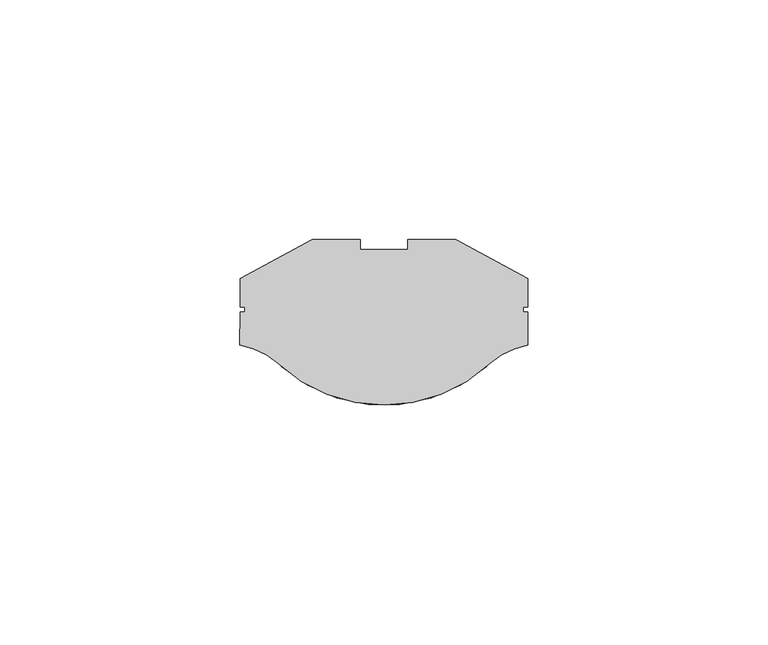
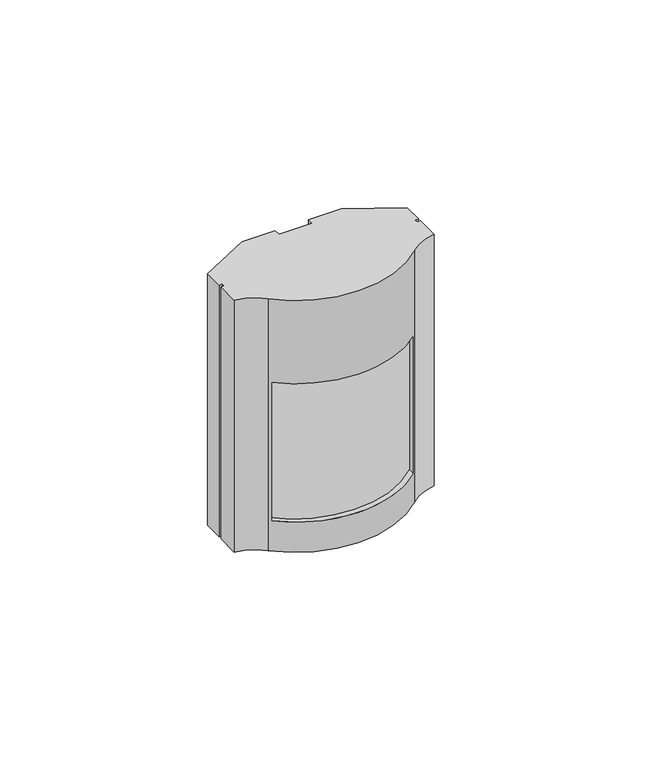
"""IFC4 building model written with IfcOpenShell, lengths in millimetres: alarm geometry, АОПИ_ тип модель : АОПИ."""

import ifcopenshell
import ifcopenshell.guid

model = None  # the IFC model being written
_history = None  # IfcOwnerHistory: only IFC2X3 demands one
_inside = {}  # id of a spatial element -> (the spatial element, [elements in it])
_under = {}  # id of a project, library or spatial element -> (it, [spatial elements below it])
_declared = {}  # id of a project -> (the project, [libraries it declares])
_typed = {}  # id of a type object -> (the type object, [elements of that type])
_made_of = {}  # id of a material, layer set ... -> (it, [elements and type objects made of it])


def new_model(schema):
    """Start an empty IFC model of exactly this schema.

    Asked for "IFC4X3", IfcOpenShell would pick the latest addendum, in which some entities
    have other attributes; the version numbers below select the first issue.
    IFC2X3 requires an IfcOwnerHistory on every rooted entity: one is made here for all.
    """
    global model, _history
    if schema == "IFC4X3":
        model = ifcopenshell.file(schema_version=(4, 3, 0, 0))
    else:
        model = ifcopenshell.file(schema=schema)
    _inside.clear()
    _under.clear()
    _declared.clear()
    _typed.clear()
    _made_of.clear()
    _history = None
    if model.schema == "IFC2X3":
        org = make("IfcOrganization", Name="unknown")
        user = make(
            "IfcPersonAndOrganization",
            ThePerson=make("IfcPerson", FamilyName="unknown"),
            TheOrganization=org,
        )
        app = make(
            "IfcApplication",
            ApplicationDeveloper=org,
            Version="unknown",
            ApplicationFullName="unknown",
            ApplicationIdentifier="unknown",
        )
        _history = make(
            "IfcOwnerHistory",
            OwningUser=user,
            OwningApplication=app,
            ChangeAction="ADDED",
            CreationDate=0,
        )
    return model


def make(cls, **values):
    """One entity of the class cls with the attributes given. An attribute that is None is left unset."""
    return model.create_entity(
        cls, **{name: value for name, value in values.items() if value is not None}
    )


def rooted(cls, **values):
    """An entity with a GlobalId (a new one), such as an element, a storey or a relation."""
    return make(cls, GlobalId=ifcopenshell.guid.new(), OwnerHistory=_history, **values)


def si_unit(unit_type, name, prefix=None):
    """IfcSIUnit, for example si_unit("LENGTHUNIT", "METRE", prefix="MILLI")."""
    return make("IfcSIUnit", UnitType=unit_type, Prefix=prefix, Name=name)


def assignment(units):
    """IfcUnitAssignment: the units of a project."""
    return None if units is None else make("IfcUnitAssignment", Units=units)


def point(xyz):
    """IfcCartesianPoint."""
    return None if xyz is None else make("IfcCartesianPoint", Coordinates=xyz)


def direction(xyz):
    """IfcDirection."""
    return None if xyz is None else make("IfcDirection", DirectionRatios=xyz)


def frame(location, z_axis=None, x_axis=None):
    """IfcAxis2Placement3D, a coordinate frame: its origin and axes. An axis left out is left unset."""
    return make(
        "IfcAxis2Placement3D",
        Location=point(location),
        Axis=direction(z_axis),
        RefDirection=direction(x_axis),
    )


def origin():
    """The frame at (0, 0, 0) with its axes left unset."""
    return frame((0.0, 0.0, 0.0))


def place(relative_to, where):
    """IfcLocalPlacement: puts the frame where relative to a parent placement (None: the world)."""
    return make(
        "IfcLocalPlacement", PlacementRelTo=relative_to, RelativePlacement=where
    )


def context(
    kind, dimensions, precision=None, world=None, true_north=None, identifier=None
):
    """IfcGeometricRepresentationContext, for example the 3D "Model" context."""
    return make(
        "IfcGeometricRepresentationContext",
        ContextIdentifier=identifier,
        ContextType=kind,
        CoordinateSpaceDimension=dimensions,
        Precision=precision,
        WorldCoordinateSystem=world,
        TrueNorth=true_north,
    )


def project(units=None, contexts=None):
    """IfcProject with its units and contexts."""
    return rooted(
        "IfcProject",
        Name="project",
        RepresentationContexts=contexts,
        UnitsInContext=assignment(units),
    )


def spatial(cls, under=None, at=None, **own):
    """A site, building, storey or space (cls), placed at a placement, below another one or the project."""
    s = rooted(cls, ObjectPlacement=at, **own)
    if under is not None:
        _under.setdefault(under.id(), (under, []))[1].append(s)
    return s


def polyline(points):
    """IfcPolyline through the points."""
    return make("IfcPolyline", Points=[point(p) for p in points])


def circle_curve(where, radius):
    """IfcCircle in the frame where."""
    return make("IfcCircle", Position=where, Radius=radius)


def shape(context_of_items, identifier, shape_type, items):
    """IfcShapeRepresentation: the items that make up one representation, for example the "Body"."""
    return make(
        "IfcShapeRepresentation",
        ContextOfItems=context_of_items,
        RepresentationIdentifier=identifier,
        RepresentationType=shape_type,
        Items=items,
    )


def source(mapping_origin, context_of_items, identifier, shape_type, items):
    """IfcRepresentationMap: a shape defined once, which mapped items show again and again."""
    return make(
        "IfcRepresentationMap",
        MappingOrigin=mapping_origin,
        MappedRepresentation=shape(context_of_items, identifier, shape_type, items),
    )


def transform(
    local_origin,
    x_axis=None,
    y_axis=None,
    z_axis=None,
    scale=None,
    scale2=None,
    scale3=None,
    uniform=True,
):
    """IfcCartesianTransformationOperator3D, or its non-uniform kind. x_axis, y_axis, z_axis: its Axis1, 2, 3."""
    if uniform:
        return make(
            "IfcCartesianTransformationOperator3D",
            Axis1=direction(x_axis),
            Axis2=direction(y_axis),
            LocalOrigin=point(local_origin),
            Scale=scale,
            Axis3=direction(z_axis),
        )
    return make(
        "IfcCartesianTransformationOperator3DnonUniform",
        Axis1=direction(x_axis),
        Axis2=direction(y_axis),
        LocalOrigin=point(local_origin),
        Scale=scale,
        Axis3=direction(z_axis),
        Scale2=scale2,
        Scale3=scale3,
    )


def mapped(mapping_source, mapping_target):
    """IfcMappedItem: shows the shape of a source again, moved by a transform."""
    return make(
        "IfcMappedItem", MappingSource=mapping_source, MappingTarget=mapping_target
    )


def made_of(thing, what):
    """Note that an element or type object is made of a material, layer set ...; save() writes the relation."""
    if what is not None:
        _made_of.setdefault(what.id(), (what, []))[1].append(thing)
    return thing


def element(
    cls,
    number,
    at=None,
    inside=None,
    cuts=None,
    type_object=None,
    material=None,
    context=None,
    identifier="Body",
    shape_type=None,
    held_by="IfcProductDefinitionShape",
    body=None,
    shapes=None,
    **own,
):
    """One element of the class cls, such as IfcWall. Its Tag is "e" and its number.

    at: its placement. inside: the storey or other place that contains it. cuts: it is an
    opening in that element (IfcRelVoidsElement). A single representation is given by context,
    identifier, shape_type and body (its items); several are given by shapes. held_by: the class
    of the entity that holds the representations. save() writes the other relations.
    """
    e = rooted(cls, Tag="e%d" % number, ObjectPlacement=at, **own)
    if body is not None:
        shapes = [shape(context, identifier, shape_type, body)]
    if shapes is not None:
        e.Representation = make(held_by, Representations=shapes)
    if inside is not None:
        _inside.setdefault(inside.id(), (inside, []))[1].append(e)
    if cuts is not None:
        rooted(
            "IfcRelVoidsElement", RelatingBuildingElement=cuts, RelatedOpeningElement=e
        )
    if type_object is not None:
        _typed.setdefault(type_object.id(), (type_object, []))[1].append(e)
    return made_of(e, material)


def aggregate(whole, parts):
    """IfcRelAggregates: a whole, such as a stair, and the parts it consists of."""
    return rooted("IfcRelAggregates", RelatingObject=whole, RelatedObjects=parts)


def save(model, path):
    """Write the relations noted so far, then the file.

    IfcRelAggregates (storeys below a building ...), IfcRelContainedInSpatialStructure (elements
    in a storey), IfcRelDefinesByType, IfcRelAssociatesMaterial and IfcRelDeclares: one each for
    every whole, place, type object, material and project.
    """
    for whole, parts in _under.values():
        aggregate(whole, parts)
    for where, things in _inside.values():
        rooted(
            "IfcRelContainedInSpatialStructure",
            RelatedElements=things,
            RelatingStructure=where,
        )
    for kind, things in _typed.values():
        rooted("IfcRelDefinesByType", RelatedObjects=things, RelatingType=kind)
    for what, things in _made_of.values():
        rooted("IfcRelAssociatesMaterial", RelatedObjects=things, RelatingMaterial=what)
    for by, libraries in _declared.values():
        rooted("IfcRelDeclares", RelatingContext=by, RelatedDefinitions=libraries)
    model.write(path)


def plane_surface(at):
    """IfcPlane: the flat surface through the origin of the frame at, square to its z axis."""
    return make("IfcPlane", Position=at)


def cylinder_surface(at, radius):
    """IfcCylindricalSurface: all points at the distance radius from the z axis of the frame at."""
    return make("IfcCylindricalSurface", Position=at, Radius=radius)


def revolved_surface(curve, axis_point, axis_direction):
    """IfcSurfaceOfRevolution: the curve turned about the line through axis_point along axis_direction."""
    return make(
        "IfcSurfaceOfRevolution",
        SweptCurve=make("IfcArbitraryOpenProfileDef", ProfileType="CURVE", Curve=curve),
        AxisPosition=make("IfcAxis1Placement", Location=point(axis_point), Axis=direction(axis_direction)),
    )


def advanced_brep(points, edges, surfaces, faces):
    """IfcAdvancedBrep: a solid bounded by faces that lie on surfaces and meet in shared edges.

    An edge is (start, end): straight between two places in points (the first is 0);
    or (start, end, curve); or (start, end, curve, False) where it runs against its curve.
    A face is (place in surfaces, loops), or (place, loops, False) where it looks against
    its surface's normal. A loop lists edges by number (the first is 1), with a minus sign
    where the edge is run from its end to its start. The first loop is the outer one.
    """
    corners = [point(p) for p in points]
    vertices = [make("IfcVertexPoint", VertexGeometry=c) for c in corners]
    made = []
    for start, end, *more in edges:
        made.append(
            make(
                "IfcEdgeCurve",
                EdgeStart=vertices[start],
                EdgeEnd=vertices[end],
                EdgeGeometry=more[0] if more else make("IfcPolyline", Points=[corners[start], corners[end]]),
                SameSense=more[1] if len(more) > 1 else True,
            )
        )
    hull = []
    for where, loops, *sense in faces:
        bounds = []
        for j, loop in enumerate(loops):
            ring = [make("IfcOrientedEdge", EdgeElement=made[abs(k) - 1], Orientation=k > 0) for k in loop]
            bounds.append(
                make(
                    "IfcFaceOuterBound" if j == 0 else "IfcFaceBound",
                    Bound=make("IfcEdgeLoop", EdgeList=ring),
                    Orientation=True,
                )
            )
        hull.append(make("IfcAdvancedFace", Bounds=bounds, FaceSurface=surfaces[where], SameSense=sense[0] if sense else True))
    return make("IfcAdvancedBrep", Outer=make("IfcClosedShell", CfsFaces=hull))


def alarm_7e1c0db4(model_context):
    return source(origin(), model_context, "Body", "AdvancedBrep", [
        advanced_brep(
        [(-5.0, 0.0, 0.0), (-15.0, 0.0, 0.0), (-30.0, -8.0473651, 0.0), (-30.0, -14.0241722, 0.0), (-29.0033784, -14.0241722, 0.0), (-29.0033784, -15.0383278, 0.0), (-30.0, -15.0383278, 0.0), (-30.0, -21.9526349, 0.0), (-22.0521326, -25.8153783, 0.0), (22.0521326, -25.8153783, 0.0), (30.0, -21.9526349, 0.0), (30.0, -15.0383278, 0.0), (29.0033784, -15.0383278, 0.0), (29.0033784, -14.0241722, 0.0), (30.0, -14.0241722, 0.0), (30.0, -8.0473651, 0.0), (15.0, 0.0, 0.0), (5.0, 0.0, 0.0), (5.0, -1.9801842, 0.0), (-5.0, -1.9801842, 0.0), (-5.0, 0.0, -80.0), (-5.0, -1.9801842, -80.0), (5.0, -1.9801842, -80.0), (5.0, 0.0, -80.0), (15.0, 0.0, -80.0), (30.0, -8.0473651, -80.0), (30.0, -14.0241722, -80.0), (29.0033784, -14.0241722, -80.0), (29.0033784, -15.0383278, -80.0), (30.0, -15.0383278, -80.0), (30.0, -21.9526349, -80.0), (22.0521326, -25.8153783, -80.0), (-22.0521326, -25.8153783, -80.0), (-30.0, -21.9526349, -80.0), (-30.0, -15.0383278, -80.0), (-29.0033784, -15.0383278, -80.0), (-29.0033784, -14.0241722, -80.0), (-30.0, -14.0241722, -80.0), (-30.0, -8.0473651, -80.0), (-15.0, 0.0, -80.0), (-21.3735822, -26.4247732, -26.3963401), (21.3735822, -26.4247732, -26.3963401), (21.3735822, -26.4247732, -70.4174075), (-21.3735822, -26.4247732, -70.4174075), (-21.3735822, -24.6174234, -26.3963401), (21.3735822, -24.330403, -26.3963401), (21.3735822, -24.330403, -70.4174075), (-21.3735822, -24.6174234, -70.4174075)],
        [
            (0, 1),
            (1, 2),
            (2, 3),
            (3, 4),
            (4, 5),
            (5, 6),
            (6, 7),
            (7, 8, circle_curve(frame((-32.4189443, -37.0378045, 0.0), z_axis=(0.0, 0.0, -1.0), x_axis=(1.0, 0.0, 0.0)), 15.2778805)),
            (8, 9, circle_curve(frame((0.0, -1.9431951, 0.0), z_axis=(0.0, 0.0, 1.0), x_axis=(1.0, 0.0, 0.0)), 32.4988874)),
            (9, 10, circle_curve(frame((32.4189443, -37.0378045, 0.0), z_axis=(0.0, 0.0, -1.0), x_axis=(-1.0, 0.0, 0.0)), 15.2778805)),
            (10, 11),
            (11, 12),
            (12, 13),
            (13, 14),
            (14, 15),
            (15, 16),
            (16, 17),
            (17, 18),
            (18, 19),
            (19, 0),
            (20, 21),
            (21, 22),
            (22, 23),
            (23, 24),
            (24, 25),
            (25, 26),
            (26, 27),
            (27, 28),
            (28, 29),
            (29, 30),
            (30, 31, circle_curve(frame((32.4189443, -37.0378045, -80.0), z_axis=(0.0, 0.0, 1.0), x_axis=(-1.0, 0.0, 0.0)), 15.2778805)),
            (31, 32, circle_curve(frame((0.0, -1.9431951, -80.0), z_axis=(0.0, 0.0, -1.0), x_axis=(1.0, 0.0, 0.0)), 32.4988874)),
            (32, 33, circle_curve(frame((-32.4189443, -37.0378045, -80.0), z_axis=(0.0, 0.0, 1.0), x_axis=(1.0, 0.0, 0.0)), 15.2778805)),
            (33, 34),
            (34, 35),
            (35, 36),
            (36, 37),
            (37, 38),
            (38, 39),
            (39, 20),
            (0, 20),
            (39, 1),
            (38, 2),
            (37, 3),
            (36, 4),
            (35, 5),
            (34, 6),
            (33, 7),
            (32, 8),
            (31, 9),
            (40, 41, circle_curve(frame((0.0, -1.9431951, -26.3963401), z_axis=(0.0, 0.0, 1.0), x_axis=(1.0, 0.0, 0.0)), 32.4988874)),
            (41, 42),
            (42, 43, circle_curve(frame((0.0, -1.9431951, -70.4174075), z_axis=(0.0, 0.0, -1.0), x_axis=(1.0, 0.0, 0.0)), 32.4988874)),
            (43, 40),
            (30, 10),
            (29, 11),
            (28, 12),
            (27, 13),
            (26, 14),
            (25, 15),
            (24, 16),
            (23, 17),
            (22, 18),
            (21, 19),
            (44, 45, circle_curve(frame((-0.1553482, -1.3372505, -26.3963401), z_axis=(0.0, 0.0, 1.0), x_axis=(1.0, 0.0, 0.0)), 31.4988874)),
            (45, 41),
            (40, 44),
            (46, 47, circle_curve(frame((-0.1553482, -1.3372505, -70.4174075), z_axis=(0.0, 0.0, -1.0), x_axis=(1.0, 0.0, 0.0)), 31.4988874)),
            (47, 43),
            (42, 46),
            (44, 47),
            (46, 45),
        ],
        [
            plane_surface(frame((0.0, 0.0, 0.0), z_axis=(0.0, 0.0, 1.0), x_axis=(-1.0, 0.0, 0.0))),
            plane_surface(frame((0.0, 0.0, -80.0), z_axis=(0.0, 0.0, -1.0), x_axis=(1.0, 0.0, 0.0))),
            plane_surface(frame((-5.0, 0.0, 0.0), z_axis=(0.0, 1.0, 0.0), x_axis=(0.0, 0.0, -1.0))),
            plane_surface(frame((-15.0, 0.0, 0.0), z_axis=(-0.4727531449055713, 0.881194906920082, 0.0), x_axis=(0.0, 0.0, -1.0))),
            plane_surface(frame((-30.0, -8.0473651, 0.0), z_axis=(-1.0, 0.0, 0.0), x_axis=(0.0, 0.0, -1.0))),
            plane_surface(frame((-30.0, -14.0241722, 0.0), z_axis=(0.0, -1.0, 0.0), x_axis=(0.0, 0.0, -1.0))),
            plane_surface(frame((-29.0033784, -14.0241722, 0.0), z_axis=(-1.0, 0.0, 0.0), x_axis=(0.0, 0.0, -1.0))),
            plane_surface(frame((-29.0033784, -15.0383278, 0.0), z_axis=(0.0, 1.0, 0.0), x_axis=(0.0, 0.0, -1.0))),
            plane_surface(frame((-30.0, -15.0383278, 0.0), z_axis=(-1.0, 0.0, 0.0), x_axis=(0.0, 0.0, -1.0))),
            revolved_surface(polyline([(-17.141063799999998, -37.0378045, -80.0), (-17.141063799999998, -37.0378045, 0.0)]), (-32.4189443, -37.0378045, -80.0), (0.0, 0.0, -1.0)),
            cylinder_surface(frame((0.0, -1.9431951, -80.0), z_axis=(0.0, 0.0, 1.0), x_axis=(1.0, 0.0, 0.0)), 32.4988874),
            revolved_surface(polyline([(17.141063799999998, -37.0378045, -80.0), (17.141063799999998, -37.0378045, 0.0)]), (32.4189443, -37.0378045, -80.0), (0.0, 0.0, -1.0)),
            plane_surface(frame((30.0, -21.9526349, 0.0), z_axis=(1.0, 0.0, 0.0), x_axis=(0.0, 0.0, -1.0))),
            plane_surface(frame((30.0, -15.0383278, 0.0), z_axis=(0.0, 1.0, 0.0), x_axis=(0.0, 0.0, -1.0))),
            plane_surface(frame((29.0033784, -15.0383278, 0.0), z_axis=(1.0, 0.0, 0.0), x_axis=(0.0, 0.0, -1.0))),
            plane_surface(frame((29.0033784, -14.0241722, 0.0), z_axis=(0.0, -1.0, 0.0), x_axis=(0.0, 0.0, -1.0))),
            plane_surface(frame((30.0, -14.0241722, 0.0), z_axis=(1.0, 0.0, 0.0), x_axis=(0.0, 0.0, -1.0))),
            plane_surface(frame((30.0, -8.0473651, 0.0), z_axis=(0.4727531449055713, 0.8811949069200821, 0.0), x_axis=(0.0, 0.0, -1.0))),
            plane_surface(frame((15.0, 0.0, 0.0), z_axis=(0.0, 1.0, 0.0), x_axis=(0.0, 0.0, -1.0))),
            plane_surface(frame((5.0, 0.0, 0.0), z_axis=(-1.0, 0.0, 0.0), x_axis=(0.0, 0.0, -1.0))),
            plane_surface(frame((5.0, -1.9801842, 0.0), z_axis=(0.0, 1.0, 0.0), x_axis=(0.0, 0.0, -1.0))),
            plane_surface(frame((-5.0, -1.9801842, 0.0), z_axis=(1.0, 0.0, 0.0), x_axis=(0.0, 0.0, -1.0))),
            plane_surface(frame((31.3435392, -1.3372505, -26.3963401), z_axis=(0.0, 0.0, -1.0), x_axis=(0.0, -1.0, 0.0))),
            plane_surface(frame((31.3435392, -1.3372505, -70.4174075), z_axis=(0.0, 0.0, 1.0), x_axis=(0.0, 1.0, 0.0))),
            cylinder_surface(frame((-0.1553482, -1.3372505, -70.4174075), z_axis=(0.0, 0.0, -1.0), x_axis=(1.0, 0.0, 0.0)), 31.4988874),
            plane_surface(frame((-21.3735822, -24.6174234, -26.3963401), z_axis=(1.0, 0.0, 0.0), x_axis=(0.0, 0.0, -1.0))),
            plane_surface(frame((21.3735822, -36.7295394, -26.3963401), z_axis=(-1.0, 0.0, 0.0), x_axis=(0.0, 0.0, -1.0))),
        ],
        [
            (0, [[1, 2, 3, 4, 5, 6, 7, 8, 9, 10, 11, 12, 13, 14, 15, 16, 17, 18, 19, 20]]),
            (1, [[21, 22, 23, 24, 25, 26, 27, 28, 29, 30, 31, 32, 33, 34, 35, 36, 37, 38, 39, 40]]),
            (2, [[-1, 41, -40, 42]]),
            (3, [[-2, -42, -39, 43]]),
            (4, [[-3, -43, -38, 44]]),
            (5, [[-4, -44, -37, 45]]),
            (6, [[-5, -45, -36, 46]]),
            (7, [[-6, -46, -35, 47]]),
            (8, [[-7, -47, -34, 48]]),
            (9, [[-8, -48, -33, 49]]),
            (10, [[-9, -49, -32, 50], [51, 52, 53, 54]]),
            (11, [[-10, -50, -31, 55]]),
            (12, [[-11, -55, -30, 56]]),
            (13, [[-12, -56, -29, 57]]),
            (14, [[-13, -57, -28, 58]]),
            (15, [[-14, -58, -27, 59]]),
            (16, [[-15, -59, -26, 60]]),
            (17, [[-16, -60, -25, 61]]),
            (18, [[-17, -61, -24, 62]]),
            (19, [[-18, -62, -23, 63]]),
            (20, [[-19, -63, -22, 64]]),
            (21, [[-20, -64, -21, -41]]),
            (22, [[65, 66, -51, 67]]),
            (23, [[68, 69, -53, 70]]),
            (24, [[-65, 71, -68, 72]]),
            (25, [[-71, -67, -54, -69]]),
            (26, [[-72, -70, -52, -66]]),
        ],
    ),
    ])


if __name__ == "__main__":
    model = new_model("IFC4")
    model_context = context("Model", 3, world=origin())
    ifc_project = project(units=[si_unit("LENGTHUNIT", "METRE", prefix="MILLI")], contexts=[model_context])
    site = spatial("IfcSite", under=ifc_project)
    building = spatial("IfcBuilding", under=site)
    placement = place(None, origin())
    alarm_shape = alarm_7e1c0db4(model_context)
    element("IfcAlarm", 1, ObjectType="АОПИ_ тип модель : АОПИ", at=placement, inside=building, context=model_context, shape_type="MappedRepresentation", body=[
        mapped(alarm_shape, transform((0.0, 0.0, 0.0), x_axis=(1.0, 0.0, 0.0), y_axis=(0.0, 1.0, 0.0), z_axis=(0.0, 0.0, 1.0))),
    ])
    save(model, "model.ifc")
